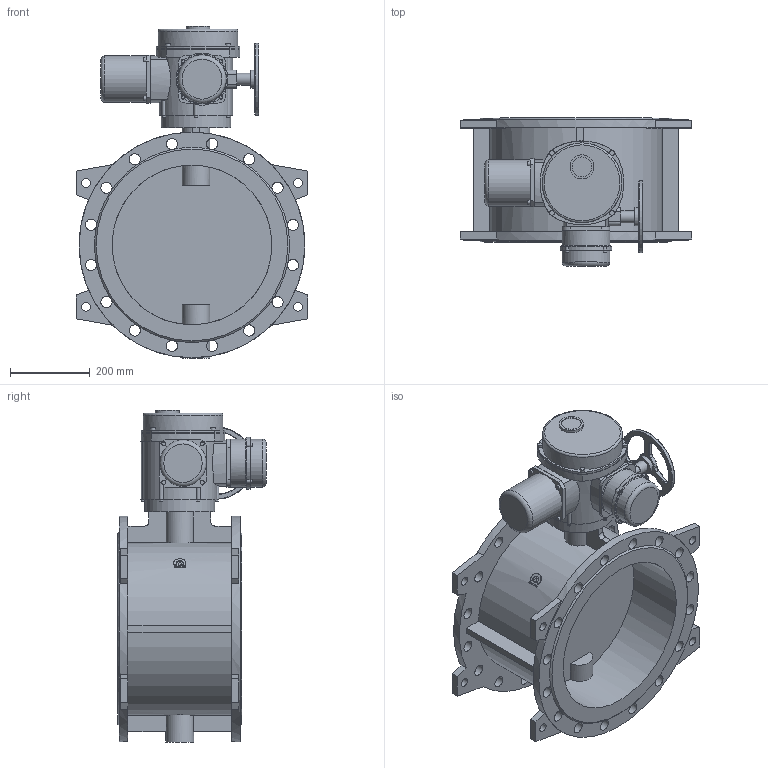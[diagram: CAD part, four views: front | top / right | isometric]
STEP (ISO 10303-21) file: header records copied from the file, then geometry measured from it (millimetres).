
FILE_DESCRIPTION(('STEP AP203'), '1');
FILE_NAME('青蜮铕 023F.Z DN400 PN10_菹_QT.Z120(F14)-180', '', ('UNSPECIFIED'), ('UNSPECIFIED'), 'ASCON STEP Converter 1.6', 'ASCON Math Kernel', '');
FILE_SCHEMA(('CONFIG_CONTROL_DESIGN'));
Length unit declared in the file: millimetre
Bounding box: 580 x 371 x 831 mm (x, y, z)
Volume: 28087457.5 mm3; surface area: 2150679.1 mm2
Topology: 1 solids, 1 shells, 390 faces, 1073 edges, 680 vertices
Faces by surface type: cylinder 177, plane 148, torus 47, cone 10, bspline 8
Full cylindrical faces by diameter (mm): 8 x10, 10 x4, 10.106 x4, 12 x4, 12.386 x1, 18 x4, 22 x8, 28 x32, 30 x1, 45 x1, 50 x1, 60 x1, 70 x1, 116 x1, 120 x2, 175 x1, 180 x1, 200 x1, 400 x2, 565 x2
Entity records: 19200 total; most frequent: CARTESIAN_POINT 6151, DIRECTION 2176, ORIENTED_EDGE 1920, EDGE_CURVE 960, AXIS2_PLACEMENT_3D 919, VERTEX_POINT 675, EDGE_LOOP 582, CIRCLE 536
